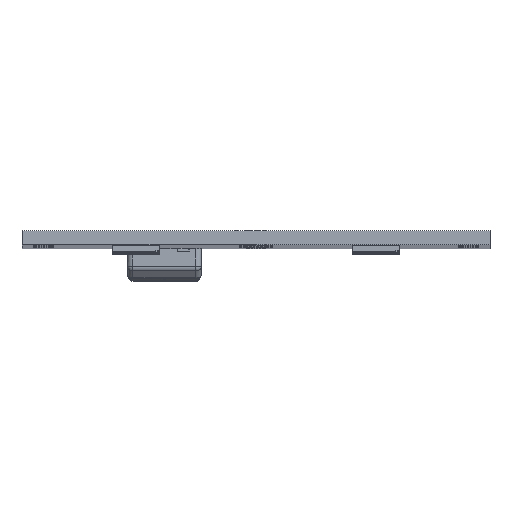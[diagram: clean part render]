
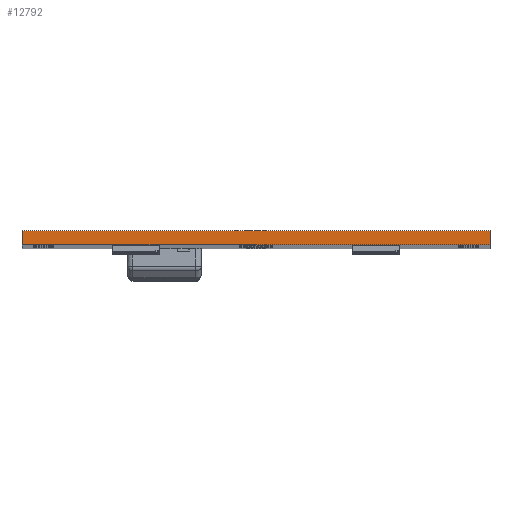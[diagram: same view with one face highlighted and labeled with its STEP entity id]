
A CAD part, top view. The second image highlights one B-rep face of the part: STEP entity #12792.
In plain terms, the highlighted planar face has unit normal (0, 0, 1).
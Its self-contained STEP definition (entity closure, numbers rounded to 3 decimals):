
#1043=ORIENTED_EDGE('',*,*,#3663,.F.);
#1044=ORIENTED_EDGE('',*,*,#3735,.F.);
#1045=ORIENTED_EDGE('',*,*,#3731,.T.);
#1046=ORIENTED_EDGE('',*,*,#3733,.T.);
#3663=EDGE_CURVE('',#5030,#5031,#5907,.T.);
#3731=EDGE_CURVE('',#5099,#5098,#5927,.T.);
#3733=EDGE_CURVE('',#5098,#5031,#5929,.T.);
#3735=EDGE_CURVE('',#5099,#5030,#5931,.T.);
#5030=VERTEX_POINT('',#16360);
#5031=VERTEX_POINT('',#16362);
#5098=VERTEX_POINT('',#16517);
#5099=VERTEX_POINT('',#16519);
#5907=LINE('',#16361,#6703);
#5927=LINE('',#16518,#6723);
#5929=LINE('',#16522,#6725);
#5931=LINE('',#16525,#6727);
#6703=VECTOR('',#14092,1000.);
#6723=VECTOR('',#14250,1000.);
#6725=VECTOR('',#14254,1000.);
#6727=VECTOR('',#14258,1000.);
#7528=EDGE_LOOP('',(#1043,#1044,#1045,#1046));
#8164=FACE_BOUND('',#7528,.T.);
#8700=PLANE('',#13386);
#12792=ADVANCED_FACE('',(#8164),#8700,.T.);
#13386=AXIS2_PLACEMENT_3D('',#16524,#14256,#14257);
#14092=DIRECTION('',(-1.,0.,0.));
#14250=DIRECTION('',(-1.,0.,0.));
#14254=DIRECTION('',(0.,-1.,0.));
#14256=DIRECTION('',(0.,0.,1.));
#14257=DIRECTION('',(1.,0.,0.));
#14258=DIRECTION('',(0.,-1.,0.));
#16360=CARTESIAN_POINT('',(24.75,0.,111.5));
#16361=CARTESIAN_POINT('',(-24.75,0.,111.5));
#16362=CARTESIAN_POINT('',(-24.75,0.,111.5));
#16517=CARTESIAN_POINT('',(-24.75,1.5,111.5));
#16518=CARTESIAN_POINT('',(-24.75,1.5,111.5));
#16519=CARTESIAN_POINT('',(24.75,1.5,111.5));
#16522=CARTESIAN_POINT('',(-24.75,1.5,111.5));
#16524=CARTESIAN_POINT('',(-24.75,1.5,111.5));
#16525=CARTESIAN_POINT('',(24.75,1.5,111.5));
